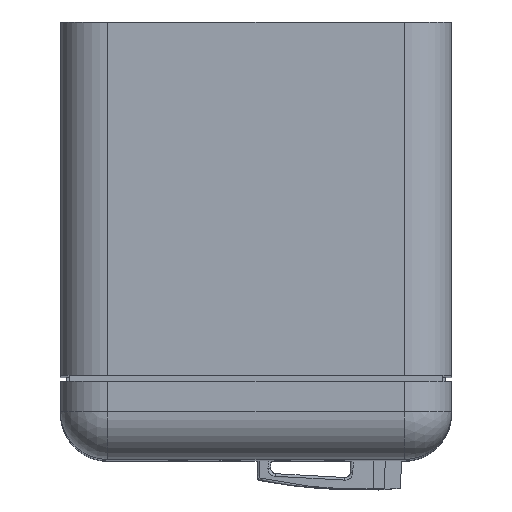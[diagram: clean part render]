
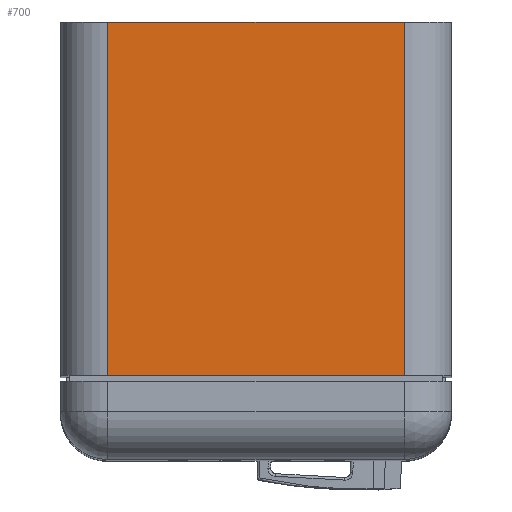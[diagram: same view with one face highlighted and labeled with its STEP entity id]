
A CAD part, top view. The second image highlights one B-rep face of the part: STEP entity #700.
In plain terms, the highlighted planar face has unit normal (0, 0, 1).
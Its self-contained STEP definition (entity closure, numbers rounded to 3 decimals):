
#466=PLANE('',#4833);
#700=ADVANCED_FACE('',(#1025),#466,.F.);
#1025=FACE_OUTER_BOUND('',#1274,.T.);
#1274=EDGE_LOOP('',(#3164,#3165,#3166,#3167));
#1627=LINE('',#9113,#1993);
#1634=LINE('',#9129,#2000);
#1638=LINE('',#9142,#2004);
#1639=LINE('',#9143,#2005);
#1993=VECTOR('',#5788,1.);
#2000=VECTOR('',#5799,1.);
#2004=VECTOR('',#5809,1.);
#2005=VECTOR('',#5810,1.);
#3164=ORIENTED_EDGE('',*,*,#4342,.F.);
#3165=ORIENTED_EDGE('',*,*,#4356,.T.);
#3166=ORIENTED_EDGE('',*,*,#4350,.T.);
#3167=ORIENTED_EDGE('',*,*,#4357,.T.);
#3730=VERTEX_POINT('',#9112);
#3731=VERTEX_POINT('',#9114);
#3738=VERTEX_POINT('',#9130);
#3739=VERTEX_POINT('',#9131);
#4342=EDGE_CURVE('',#3730,#3731,#1627,.T.);
#4350=EDGE_CURVE('',#3738,#3739,#1634,.T.);
#4356=EDGE_CURVE('',#3730,#3738,#1638,.T.);
#4357=EDGE_CURVE('',#3739,#3731,#1639,.T.);
#4833=AXIS2_PLACEMENT_3D('',#9144,#5811,#5812);
#5788=DIRECTION('',(-1.,0.,0.));
#5799=DIRECTION('',(-1.,0.,0.));
#5809=DIRECTION('',(0.,1.,0.));
#5810=DIRECTION('',(0.,-1.,0.));
#5811=DIRECTION('',(0.,0.,-1.));
#5812=DIRECTION('',(1.,0.,0.));
#9112=CARTESIAN_POINT('',(587.45,783.45,941.));
#9113=CARTESIAN_POINT('',(660.45,783.45,941.));
#9114=CARTESIAN_POINT('',(133.45,783.45,941.));
#9129=CARTESIAN_POINT('',(660.45,1325.45,941.));
#9130=CARTESIAN_POINT('',(587.45,1325.45,941.));
#9131=CARTESIAN_POINT('',(133.45,1325.45,941.));
#9142=CARTESIAN_POINT('',(587.45,1325.45,941.));
#9143=CARTESIAN_POINT('',(133.45,1325.45,941.));
#9144=CARTESIAN_POINT('',(660.45,1325.45,941.));
